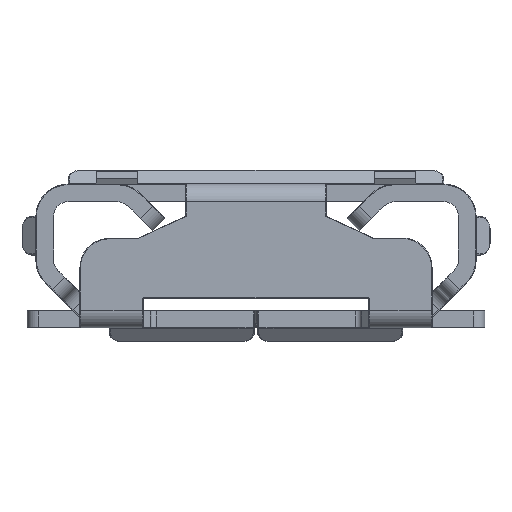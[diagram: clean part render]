
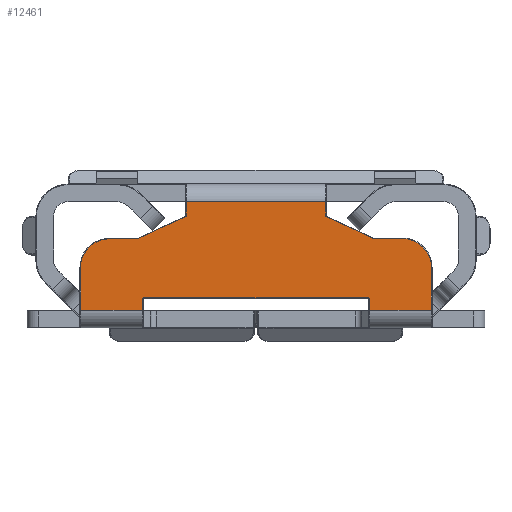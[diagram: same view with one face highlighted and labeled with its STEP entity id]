
A CAD part, front view. The second image highlights one B-rep face of the part: STEP entity #12461.
In plain terms, the highlighted planar face has unit normal (0, -1, 0).
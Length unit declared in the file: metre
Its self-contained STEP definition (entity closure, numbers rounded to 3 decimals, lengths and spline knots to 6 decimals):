
#64=PLANE('',#14097);
#528=LINE('',#19980,#1352);
#529=LINE('',#19991,#1353);
#537=LINE('',#20039,#1361);
#541=LINE('',#20057,#1365);
#549=LINE('',#20092,#1373);
#559=LINE('',#20150,#1383);
#561=LINE('',#20162,#1385);
#780=LINE('',#22016,#1604);
#821=LINE('',#22278,#1645);
#987=LINE('',#23046,#1811);
#988=LINE('',#23048,#1812);
#1005=LINE('',#23086,#1829);
#1006=LINE('',#23088,#1830);
#1007=LINE('',#23089,#1831);
#1352=VECTOR('',#15274,1.);
#1353=VECTOR('',#15287,1.);
#1361=VECTOR('',#15343,1.);
#1365=VECTOR('',#15363,1.);
#1373=VECTOR('',#15403,1.);
#1383=VECTOR('',#15471,1.);
#1385=VECTOR('',#15485,1.);
#1604=VECTOR('',#16856,1.);
#1645=VECTOR('',#17135,1.);
#1811=VECTOR('',#17715,1.);
#1812=VECTOR('',#17718,1.);
#1829=VECTOR('',#17761,1.);
#1830=VECTOR('',#17764,1.);
#1831=VECTOR('',#17765,1.);
#2329=CIRCLE('',#13094,0.00049);
#2349=CIRCLE('',#13124,0.00002);
#2357=CIRCLE('',#13136,0.00002);
#2383=CIRCLE('',#13177,0.00049);
#5728=ORIENTED_EDGE('',*,*,#8746,.T.);
#5729=ORIENTED_EDGE('',*,*,#7567,.T.);
#5730=ORIENTED_EDGE('',*,*,#7569,.T.);
#5731=ORIENTED_EDGE('',*,*,#7572,.T.);
#5732=ORIENTED_EDGE('',*,*,#8724,.T.);
#5733=ORIENTED_EDGE('',*,*,#7596,.T.);
#5734=ORIENTED_EDGE('',*,*,#7599,.F.);
#5735=ORIENTED_EDGE('',*,*,#7605,.T.);
#5736=ORIENTED_EDGE('',*,*,#7611,.F.);
#5737=ORIENTED_EDGE('',*,*,#7623,.T.);
#5738=ORIENTED_EDGE('',*,*,#8723,.T.);
#5739=ORIENTED_EDGE('',*,*,#7652,.T.);
#5740=ORIENTED_EDGE('',*,*,#7655,.T.);
#5741=ORIENTED_EDGE('',*,*,#7658,.T.);
#5742=ORIENTED_EDGE('',*,*,#8747,.T.);
#5743=ORIENTED_EDGE('',*,*,#8324,.T.);
#5744=ORIENTED_EDGE('',*,*,#8745,.T.);
#5745=ORIENTED_EDGE('',*,*,#8446,.T.);
#7567=EDGE_CURVE('',#9305,#9307,#528,.T.);
#7569=EDGE_CURVE('',#9307,#9309,#2329,.T.);
#7572=EDGE_CURVE('',#9309,#9311,#529,.T.);
#7596=EDGE_CURVE('',#9325,#9327,#537,.T.);
#7599=EDGE_CURVE('',#9329,#9327,#2349,.T.);
#7605=EDGE_CURVE('',#9329,#9333,#541,.T.);
#7611=EDGE_CURVE('',#9337,#9333,#2357,.T.);
#7623=EDGE_CURVE('',#9337,#9344,#549,.T.);
#7652=EDGE_CURVE('',#9361,#9363,#559,.T.);
#7655=EDGE_CURVE('',#9363,#9365,#2383,.T.);
#7658=EDGE_CURVE('',#9365,#9366,#561,.T.);
#8324=EDGE_CURVE('',#9803,#9798,#780,.T.);
#8446=EDGE_CURVE('',#9883,#9884,#821,.T.);
#8723=EDGE_CURVE('',#9344,#9361,#987,.T.);
#8724=EDGE_CURVE('',#9311,#9325,#988,.T.);
#8745=EDGE_CURVE('',#9798,#9883,#1005,.T.);
#8746=EDGE_CURVE('',#9884,#9305,#1006,.T.);
#8747=EDGE_CURVE('',#9366,#9803,#1007,.T.);
#9305=VERTEX_POINT('',#19975);
#9307=VERTEX_POINT('',#19979);
#9309=VERTEX_POINT('',#19984);
#9311=VERTEX_POINT('',#19990);
#9325=VERTEX_POINT('',#20032);
#9327=VERTEX_POINT('',#20038);
#9329=VERTEX_POINT('',#20044);
#9333=VERTEX_POINT('',#20056);
#9337=VERTEX_POINT('',#20068);
#9344=VERTEX_POINT('',#20091);
#9361=VERTEX_POINT('',#20143);
#9363=VERTEX_POINT('',#20149);
#9365=VERTEX_POINT('',#20155);
#9366=VERTEX_POINT('',#20160);
#9798=VERTEX_POINT('',#22001);
#9803=VERTEX_POINT('',#22014);
#9883=VERTEX_POINT('',#22271);
#9884=VERTEX_POINT('',#22276);
#10837=EDGE_LOOP('',(#5728,#5729,#5730,#5731,#5732,#5733,#5734,#5735,#5736,
#5737,#5738,#5739,#5740,#5741,#5742,#5743,#5744,#5745));
#11635=FACE_BOUND('',#10837,.T.);
#12461=ADVANCED_FACE('',(#11635),#64,.T.);
#13094=AXIS2_PLACEMENT_3D('',#19985,#15279,#15280);
#13124=AXIS2_PLACEMENT_3D('',#20045,#15349,#15350);
#13136=AXIS2_PLACEMENT_3D('',#20069,#15377,#15378);
#13177=AXIS2_PLACEMENT_3D('',#20156,#15477,#15478);
#14097=AXIS2_PLACEMENT_3D('',#23087,#17762,#17763);
#15274=DIRECTION('',(-1.,0.,0.));
#15279=DIRECTION('',(0.,-1.,0.));
#15280=DIRECTION('',(1.,0.,0.));
#15287=DIRECTION('',(0.,0.,-1.));
#15343=DIRECTION('',(0.,0.,1.));
#15349=DIRECTION('',(0.,-1.,0.));
#15350=DIRECTION('',(1.,0.,0.));
#15363=DIRECTION('',(1.,0.,0.));
#15377=DIRECTION('',(0.,-1.,0.));
#15378=DIRECTION('',(1.,0.,0.));
#15403=DIRECTION('',(0.,0.,-1.));
#15471=DIRECTION('',(0.,0.,1.));
#15477=DIRECTION('',(0.,-1.,0.));
#15478=DIRECTION('',(1.,0.,0.));
#15485=DIRECTION('',(-1.,0.,-0.008));
#16856=DIRECTION('',(0.,0.,1.));
#17135=DIRECTION('',(0.,0.,-1.));
#17715=DIRECTION('',(1.,0.,0.));
#17718=DIRECTION('',(1.,0.,0.));
#17761=DIRECTION('',(-1.,0.,0.));
#17762=DIRECTION('',(0.,-1.,0.));
#17763=DIRECTION('',(1.,0.,0.));
#17764=DIRECTION('',(-0.906,0.,-0.423));
#17765=DIRECTION('',(-0.906,0.,0.423));
#19975=CARTESIAN_POINT('',(-0.002021,0.0215,0.002017));
#19979=CARTESIAN_POINT('',(-0.0025,0.0215,0.002017));
#19980=CARTESIAN_POINT('',(-0.0025,0.0215,0.002017));
#19984=CARTESIAN_POINT('',(-0.00299,0.0215,0.001527));
#19985=CARTESIAN_POINT('',(-0.0025,0.0215,0.001527));
#19990=CARTESIAN_POINT('',(-0.00299,0.0215,0.0008));
#19991=CARTESIAN_POINT('',(-0.00299,0.0215,0.0008));
#20032=CARTESIAN_POINT('',(-0.001935,0.0215,0.0008));
#20038=CARTESIAN_POINT('',(-0.001935,0.0215,0.00099));
#20039=CARTESIAN_POINT('',(-0.001935,0.0215,0.001));
#20044=CARTESIAN_POINT('',(-0.001915,0.0215,0.00101));
#20045=CARTESIAN_POINT('',(-0.001915,0.0215,0.00099));
#20056=CARTESIAN_POINT('',(0.001915,0.0215,0.00101));
#20057=CARTESIAN_POINT('',(0.001925,0.0215,0.00101));
#20068=CARTESIAN_POINT('',(0.001935,0.0215,0.00099));
#20069=CARTESIAN_POINT('',(0.001915,0.0215,0.00099));
#20091=CARTESIAN_POINT('',(0.001935,0.0215,0.0008));
#20092=CARTESIAN_POINT('',(0.001935,0.0215,0.0008));
#20143=CARTESIAN_POINT('',(0.00299,0.0215,0.0008));
#20149=CARTESIAN_POINT('',(0.00299,0.0215,0.001531));
#20150=CARTESIAN_POINT('',(0.00299,0.0215,0.001531));
#20155=CARTESIAN_POINT('',(0.002496,0.0215,0.002021));
#20156=CARTESIAN_POINT('',(0.0025,0.0215,0.001531));
#20160=CARTESIAN_POINT('',(0.002021,0.0215,0.002017));
#20162=CARTESIAN_POINT('',(0.002,0.0215,0.002017));
#22001=CARTESIAN_POINT('',(0.00119,0.0215,0.00265));
#22014=CARTESIAN_POINT('',(0.00119,0.0215,0.002405));
#22016=CARTESIAN_POINT('',(0.00119,0.0215,0.00265));
#22271=CARTESIAN_POINT('',(-0.00119,0.0215,0.00265));
#22276=CARTESIAN_POINT('',(-0.00119,0.0215,0.002405));
#22278=CARTESIAN_POINT('',(-0.00119,0.0215,0.0024));
#23046=CARTESIAN_POINT('',(0.003,0.0215,0.0008));
#23048=CARTESIAN_POINT('',(-0.0012,0.0215,0.0008));
#23086=CARTESIAN_POINT('',(-0.0012,0.0215,0.00265));
#23087=CARTESIAN_POINT('',(-0.0012,0.0215,0.002027));
#23088=CARTESIAN_POINT('',(-0.0012,0.0215,0.0024));
#23089=CARTESIAN_POINT('',(0.0012,0.0215,0.0024));
